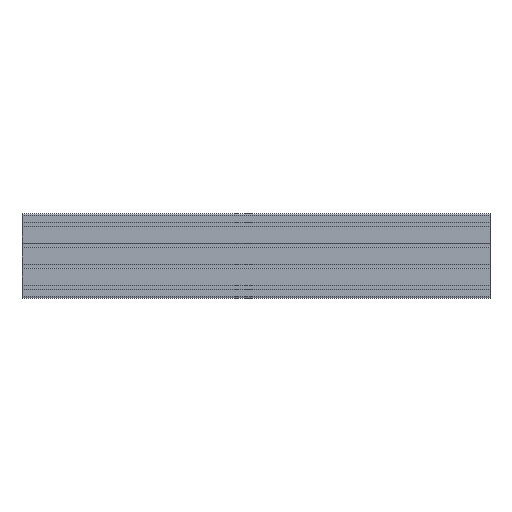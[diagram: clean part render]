
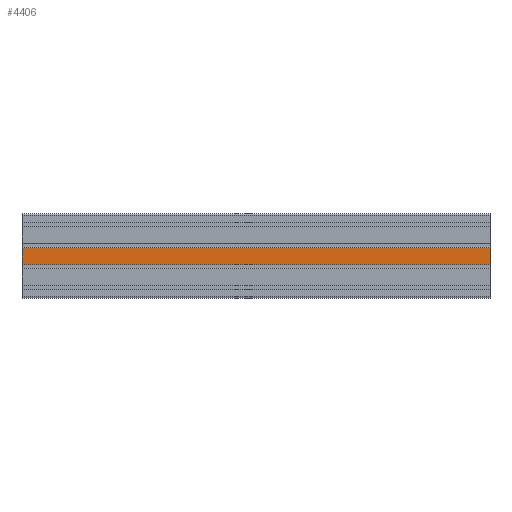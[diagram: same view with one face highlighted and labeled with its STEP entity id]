
A CAD part, top view. The second image highlights one B-rep face of the part: STEP entity #4406.
In plain terms, the highlighted planar face has unit normal (0, 0, 1).
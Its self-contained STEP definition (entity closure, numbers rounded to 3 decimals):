
#126 = CARTESIAN_POINT ( 'NONE',  ( 0., -18.1, 22.5 ) ) ;
#129 = ORIENTED_EDGE ( 'NONE', *, *, #8384, .F. ) ;
#501 = PLANE ( 'NONE',  #6273 ) ;
#536 = VECTOR ( 'NONE', #3083, 1000. ) ;
#579 = ORIENTED_EDGE ( 'NONE', *, *, #7292, .T. ) ;
#605 = CARTESIAN_POINT ( 'NONE',  ( 1000., 18.1, 22.5 ) ) ;
#734 = DIRECTION ( 'NONE',  ( 0., -1., 0. ) ) ;
#987 = LINE ( 'NONE', #9728, #6391 ) ;
#1325 = EDGE_CURVE ( 'NONE', #9799, #3982, #987, .T. ) ;
#1401 = EDGE_LOOP ( 'NONE', ( #2647, #3120, #129, #579 ) ) ;
#1767 = VECTOR ( 'NONE', #3461, 1000. ) ;
#2228 = DIRECTION ( 'NONE',  ( 0., 0., -1. ) ) ;
#2647 = ORIENTED_EDGE ( 'NONE', *, *, #1325, .T. ) ;
#3083 = DIRECTION ( 'NONE',  ( -1., 0., 0. ) ) ;
#3120 = ORIENTED_EDGE ( 'NONE', *, *, #7595, .F. ) ;
#3461 = DIRECTION ( 'NONE',  ( -1., 0., 0. ) ) ;
#3982 = VERTEX_POINT ( 'NONE', #126 ) ;
#4406 = ADVANCED_FACE ( 'NONE', ( #5515 ), #501, .F. ) ;
#4610 = DIRECTION ( 'NONE',  ( 0., 1., 0. ) ) ;
#4652 = CARTESIAN_POINT ( 'NONE',  ( 1000., 18.1, 22.5 ) ) ;
#4756 = LINE ( 'NONE', #4652, #536 ) ;
#4844 = LINE ( 'NONE', #10375, #10352 ) ;
#5138 = VERTEX_POINT ( 'NONE', #10584 ) ;
#5515 = FACE_OUTER_BOUND ( 'NONE', #1401, .T. ) ;
#6273 = AXIS2_PLACEMENT_3D ( 'NONE', #605, #2228, #4610 ) ;
#6391 = VECTOR ( 'NONE', #9780, 1000. ) ;
#6965 = LINE ( 'NONE', #10239, #1767 ) ;
#7292 = EDGE_CURVE ( 'NONE', #5138, #9799, #4756, .T. ) ;
#7595 = EDGE_CURVE ( 'NONE', #9779, #3982, #6965, .T. ) ;
#8384 = EDGE_CURVE ( 'NONE', #5138, #9779, #4844, .T. ) ;
#9219 = CARTESIAN_POINT ( 'NONE',  ( 0., 18.1, 22.5 ) ) ;
#9728 = CARTESIAN_POINT ( 'NONE',  ( 0., 18.1, 22.5 ) ) ;
#9779 = VERTEX_POINT ( 'NONE', #10124 ) ;
#9780 = DIRECTION ( 'NONE',  ( 0., -1., 0. ) ) ;
#9799 = VERTEX_POINT ( 'NONE', #9219 ) ;
#10124 = CARTESIAN_POINT ( 'NONE',  ( 1000., -18.1, 22.5 ) ) ;
#10239 = CARTESIAN_POINT ( 'NONE',  ( 1000., -18.1, 22.5 ) ) ;
#10352 = VECTOR ( 'NONE', #734, 1000. ) ;
#10375 = CARTESIAN_POINT ( 'NONE',  ( 1000., 18.1, 22.5 ) ) ;
#10584 = CARTESIAN_POINT ( 'NONE',  ( 1000., 18.1, 22.5 ) ) ;
